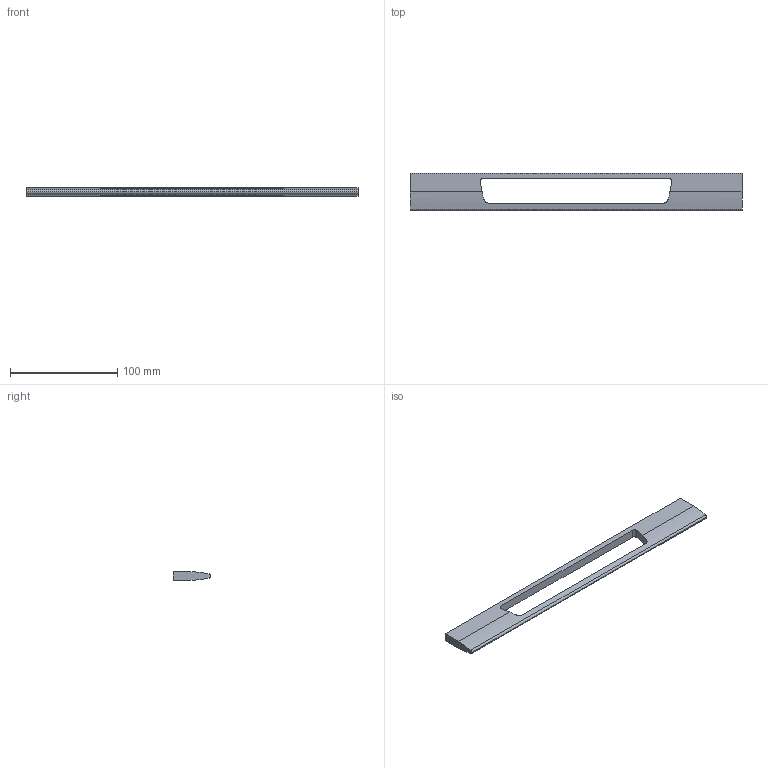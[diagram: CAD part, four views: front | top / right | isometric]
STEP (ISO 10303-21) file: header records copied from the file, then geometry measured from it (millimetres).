
FILE_DESCRIPTION( ( '' ), '1' );
FILE_NAME( 'D:/1.AUTOCAD EXPORT/Group 10/sheet_10_1/9105838.stp', '2013-10-18T05:20:44', ( '' ), ( '' ), ' ', ' ', ' ' );
FILE_SCHEMA( ( 'automotive_design' ) );
Length unit declared in the file: millimetre
Products named in the file (1): 1
Bounding box: 309 x 35 x 8 mm (x, y, z)
Volume: 45305 mm3; surface area: 20291.6 mm2
Topology: 1 solids, 1 shells, 23 faces, 63 edges, 42 vertices
Faces by surface type: cylinder 12, plane 11
Entity records: 1530 total; most frequent: CARTESIAN_POINT 189, DIRECTION 131, STYLED_ITEM 129, PRESENTATION_STYLE_ASSIGNMENT 129, COLOUR_RGB 129, ORIENTED_EDGE 126, EDGE_CURVE 63, CURVE_STYLE 63
